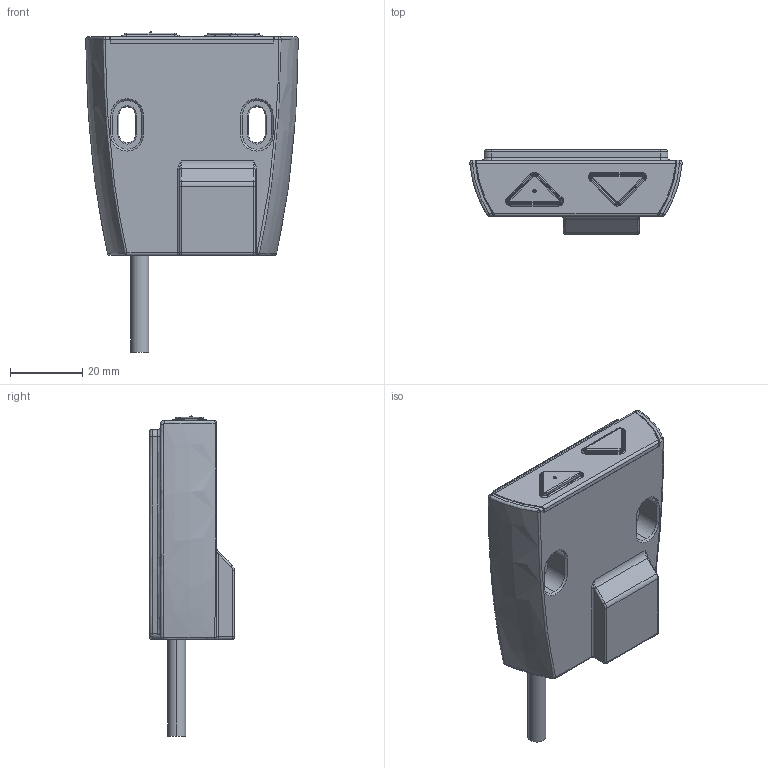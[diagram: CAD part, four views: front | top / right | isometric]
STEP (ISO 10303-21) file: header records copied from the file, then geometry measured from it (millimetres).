
FILE_DESCRIPTION (( 'STEP AP203' ), '1' );
FILE_NAME ('3D_TDH15-A.STEP', '2018-07-09T04:06:56', ( '' ), ( '' ), 'SwSTEP 2.0', 'SolidWorks 2015', '' );
FILE_SCHEMA (( 'CONFIG_CONTROL_DESIGN' ));
Length unit declared in the file: millimetre
Products named in the file (1): 3D_TDH15-A
Bounding box: 58.9 x 23.5 x 88.8 mm (x, y, z)
Volume: 56073.1 mm3; surface area: 20479.7 mm2
Topology: 5 solids, 5 shells, 306 faces, 739 edges, 441 vertices
Faces by surface type: plane 105, cylinder 96, torus 42, bspline 38, cone 18, sphere 7
Entity records: 13202 total; most frequent: CARTESIAN_POINT 6140, DIRECTION 1470, ORIENTED_EDGE 1462, EDGE_CURVE 731, AXIS2_PLACEMENT_3D 560, VERTEX_POINT 441, VECTOR 350, LINE 350
